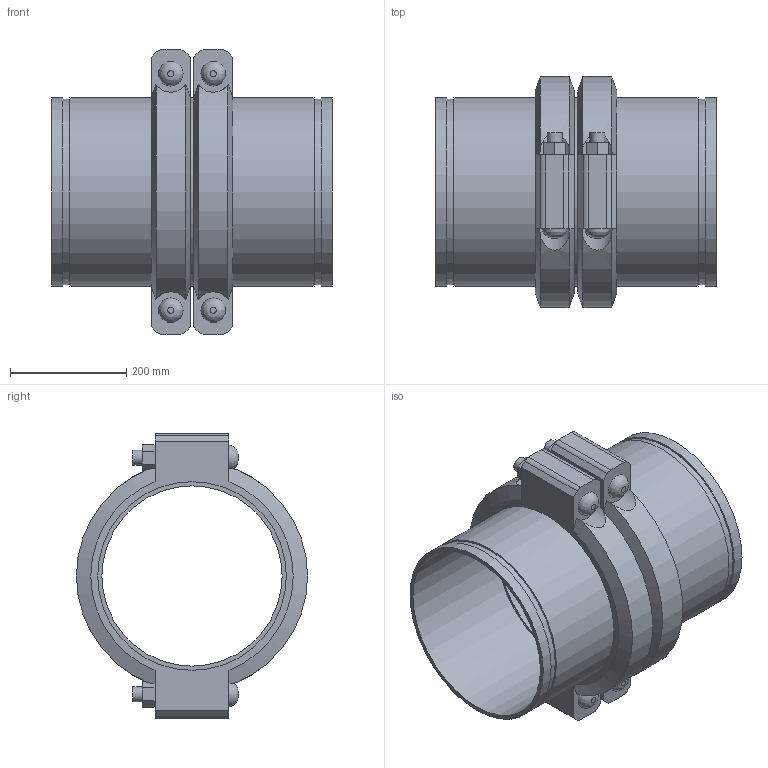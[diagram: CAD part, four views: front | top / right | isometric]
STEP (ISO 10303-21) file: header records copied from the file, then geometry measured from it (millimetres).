
FILE_DESCRIPTION(/* description */ ('VIC SS EXPANSION JOINT 2 COUPLINGS NEUTRAL STYLE 155P (OGS) (POTABLE WATER) ','CAx-IF Rec.Pracs.---Representation and Presentation of Product Manufacturing Information (PMI)---4.0---2014-10-13'),/* implementation_level */ '2;1');
FILE_NAME(/* name */ 'C:\Users\kkamble\AppData\Roaming\Autodesk\ApplicationPlugins\Victaulic.Temp\A659\Victaulic_SS_Expansion Joint_Neutral_2 Couplings_Style 155P (OGS)-Potable Water_2 Coup_Neut_12 (300).stp',/* time_stamp */ '2021-07-16T16:31:23+05:00',/* author */ ('kkamble'),/* organization */ ('Victaulic'),/* preprocessor_version */ 'ST-DEVELOPER v17.2',/* originating_system */ 'Autodesk Inventor 2019',/* authorisation */ '');
FILE_SCHEMA (('AP242_MANAGED_MODEL_BASED_3D_ENGINEERING_MIM_LF { 1 0 10303 442 1 1 4 }'));
Length unit declared in the file: inch
Products named in the file (4): 155P-12.0; Nipple-12.0; Nipple-12.0_1; 077-12.0
Assembly tree (5 placements, depth 2):
  155P-12.0
    Nipple-12.0  x2
    Nipple-12.0_1
    077-12.0  x2
Bounding box: 482.6 x 397 x 488.95 mm (x, y, z)
Volume: 9970339.6 mm3; surface area: 1662586 mm2
Topology: 5 solids, 9 shells, 158 faces, 380 edges, 268 vertices
Faces by surface type: plane 90, cylinder 56, cone 8, bspline 4
Full cylindrical faces by diameter (mm): 25.4 x8, 27.432 x4, 309.677 x3, 314.96 x2, 318.287 x6, 323.85 x13
Entity records: 3009 total; most frequent: CARTESIAN_POINT 653, DIRECTION 465, ORIENTED_EDGE 410, EDGE_CURVE 205, AXIS2_PLACEMENT_3D 188, VERTEX_POINT 146, EDGE_LOOP 111, CIRCLE 96
